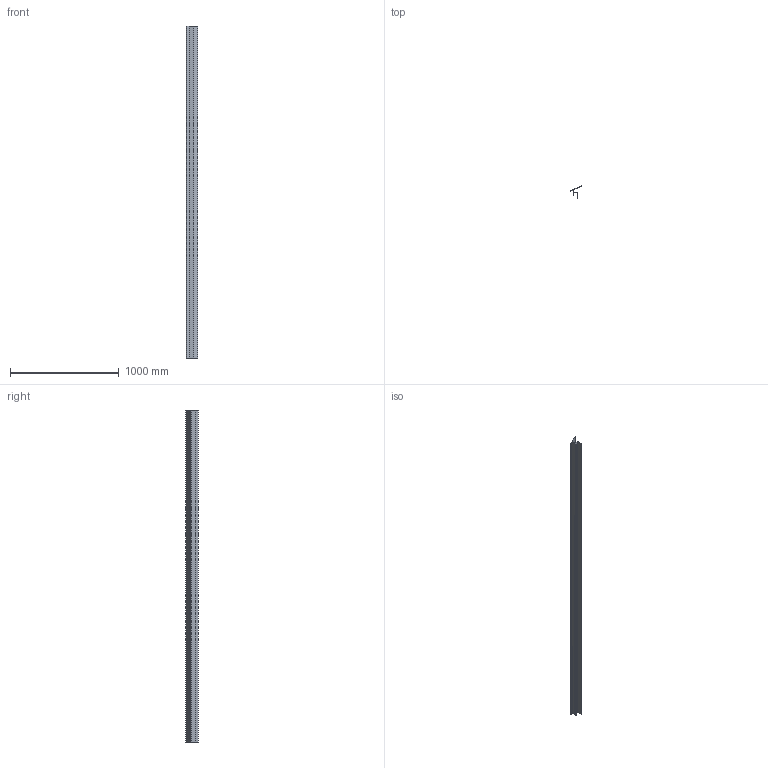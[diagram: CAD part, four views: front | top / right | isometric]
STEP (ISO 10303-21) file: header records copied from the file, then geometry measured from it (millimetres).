
FILE_DESCRIPTION (( 'STEP AP203' ), '1' );
FILE_NAME ('M60B.STEP', '2018-06-18T17:51:03', ( 'Michael Moliner' ), ( '' ), 'SwSTEP 2.0', 'SolidWorks 2018', '' );
FILE_SCHEMA (( 'CONFIG_CONTROL_DESIGN' ));
Length unit declared in the file: inch
Products named in the file (2): M60B
Bounding box: 100.99 x 113.58 x 3048 mm (x, y, z)
Volume: 472522.4 mm3; surface area: 1863731 mm2
Topology: 1 solids, 1 shells, 34 faces, 96 edges, 64 vertices
Faces by surface type: plane 20, cylinder 14
Entity records: 1265 total; most frequent: CARTESIAN_POINT 196, DIRECTION 196, ORIENTED_EDGE 192, EDGE_CURVE 96, VECTOR 68, LINE 68, VERTEX_POINT 64, AXIS2_PLACEMENT_3D 64
